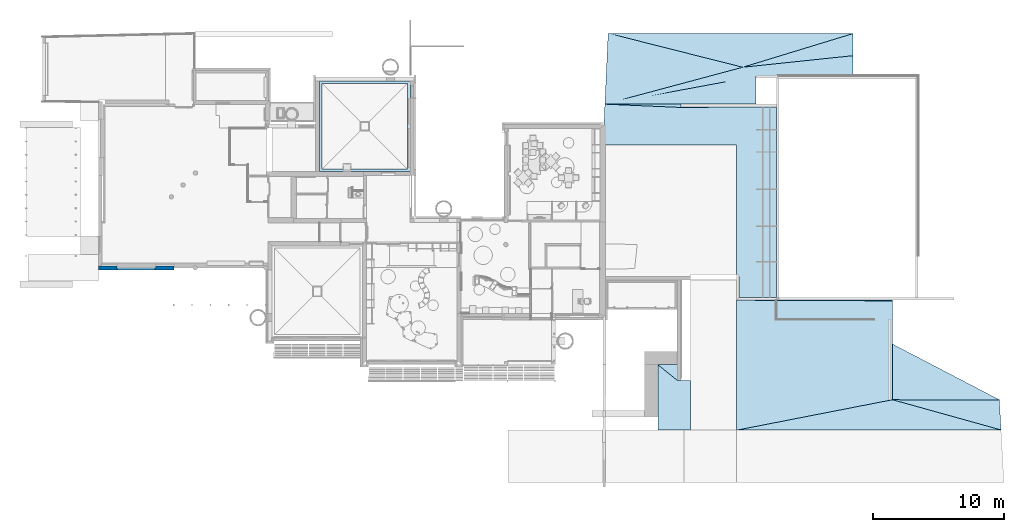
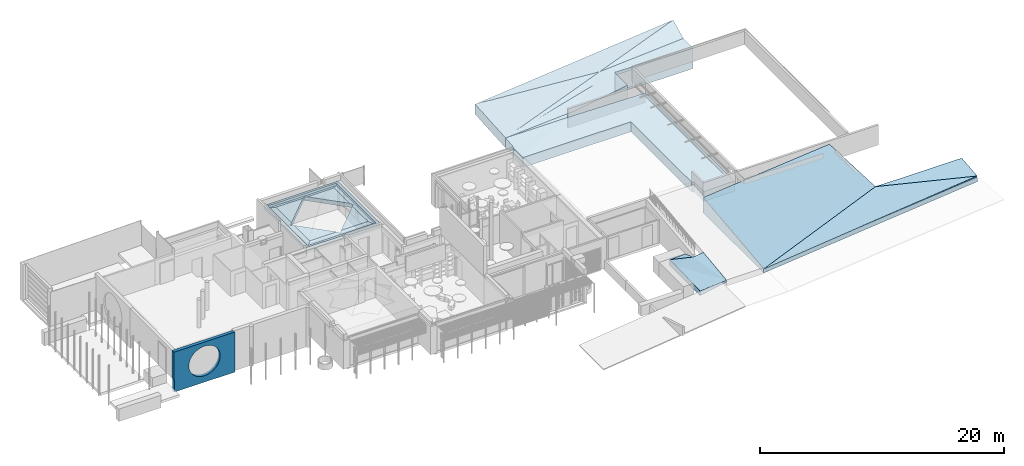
# One storey, part 36 of 64: 5 slabs, 1 wall.
"""IFC2X3 building model written with IfcOpenShell, lengths in metres."""

from ifc_helpers import new_model, entity, si_unit, converted_unit, derived_unit, direction, frame, origin, place, context, subcontext, project, spatial, faceted_brep, material, layer, layer_set, type_object, element, save


model = new_model("IFC2X3")

# Units and contexts
model_context = context("Model", 3, precision=1e-05, world=origin(), true_north=direction((6.123031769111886e-17, 1.0)))
body_context = subcontext(model_context, "Body", "Model", "MODEL_VIEW")
ifc_project = project(units=[si_unit("LENGTHUNIT", "METRE"), si_unit("AREAUNIT", "SQUARE_METRE"), si_unit("VOLUMEUNIT", "CUBIC_METRE"), converted_unit("PLANEANGLEUNIT", "DEGREE", entity("IfcRatioMeasure", 0.017453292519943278), si_unit("PLANEANGLEUNIT", "RADIAN"), dimensions=[0, 0, 0, 0, 0, 0, 0]), si_unit("MASSUNIT", "GRAM", prefix="KILO"), derived_unit("MASSDENSITYUNIT", [(si_unit("MASSUNIT", "GRAM", prefix="KILO"), 1), (si_unit("LENGTHUNIT", "METRE"), -3)]), derived_unit("MOMENTOFINERTIAUNIT", [(si_unit("LENGTHUNIT", "METRE"), 4)]), si_unit("TIMEUNIT", "SECOND"), si_unit("FREQUENCYUNIT", "HERTZ"), si_unit("THERMODYNAMICTEMPERATUREUNIT", "DEGREE_CELSIUS"), derived_unit("THERMALTRANSMITTANCEUNIT", [(si_unit("MASSUNIT", "GRAM", prefix="KILO"), 1), (si_unit("THERMODYNAMICTEMPERATUREUNIT", "KELVIN"), -1), (si_unit("TIMEUNIT", "SECOND"), -3)]), derived_unit("THERMALCONDUCTANCEUNIT", [(si_unit("MASSUNIT", "GRAM", prefix="KILO"), 1), (si_unit("LENGTHUNIT", "METRE"), 1), (si_unit("THERMODYNAMICTEMPERATUREUNIT", "KELVIN"), -1), (si_unit("TIMEUNIT", "SECOND"), -3)]), derived_unit("VOLUMETRICFLOWRATEUNIT", [(si_unit("LENGTHUNIT", "METRE"), 3), (si_unit("TIMEUNIT", "SECOND"), -1)]), derived_unit("MASSFLOWRATEUNIT", [(si_unit("MASSUNIT", "GRAM", prefix="KILO"), 1), (si_unit("TIMEUNIT", "SECOND"), -1)]), derived_unit("ROTATIONALFREQUENCYUNIT", [(si_unit("TIMEUNIT", "SECOND"), -1)]), si_unit("ELECTRICCURRENTUNIT", "AMPERE"), si_unit("ELECTRICVOLTAGEUNIT", "VOLT"), si_unit("POWERUNIT", "WATT"), si_unit("FORCEUNIT", "NEWTON", prefix="KILO"), si_unit("ILLUMINANCEUNIT", "LUX"), si_unit("LUMINOUSFLUXUNIT", "LUMEN"), si_unit("LUMINOUSINTENSITYUNIT", "CANDELA"), derived_unit("USERDEFINED", [(si_unit("MASSUNIT", "GRAM", prefix="KILO"), -1), (si_unit("LENGTHUNIT", "METRE"), -2), (si_unit("TIMEUNIT", "SECOND"), 3), (si_unit("LUMINOUSFLUXUNIT", "LUMEN"), 1)]), derived_unit("USERDEFINED", [(si_unit("MASSUNIT", "GRAM", prefix="KILO"), 1), (si_unit("LENGTHUNIT", "METRE"), 3), (si_unit("TIMEUNIT", "SECOND"), -3), (si_unit("ELECTRICCURRENTUNIT", "AMPERE"), -2)]), derived_unit("USERDEFINED", [(si_unit("LENGTHUNIT", "METRE"), 2), (si_unit("TIMEUNIT", "SECOND"), -2)]), derived_unit("SOUNDPOWERUNIT", [(si_unit("MASSUNIT", "GRAM", prefix="KILO"), 1), (si_unit("LENGTHUNIT", "METRE"), 2), (si_unit("TIMEUNIT", "SECOND"), -3)]), derived_unit("SOUNDPRESSUREUNIT", [(si_unit("MASSUNIT", "GRAM", prefix="KILO"), 1), (si_unit("LENGTHUNIT", "METRE"), -1), (si_unit("TIMEUNIT", "SECOND"), -2)]), derived_unit("LINEARVELOCITYUNIT", [(si_unit("LENGTHUNIT", "METRE"), 1), (si_unit("TIMEUNIT", "SECOND"), -1)]), si_unit("PRESSUREUNIT", "PASCAL"), derived_unit("USERDEFINED", [(si_unit("LENGTHUNIT", "METRE"), -2), (si_unit("MASSUNIT", "GRAM", prefix="KILO"), 1), (si_unit("TIMEUNIT", "SECOND"), -2)]), derived_unit("LINEARFORCEUNIT", [(si_unit("MASSUNIT", "GRAM", prefix="KILO"), 1), (si_unit("LENGTHUNIT", "METRE"), 1), (si_unit("TIMEUNIT", "SECOND"), -2), (si_unit("LENGTHUNIT", "METRE"), -1)]), derived_unit("PLANARFORCEUNIT", [(si_unit("MASSUNIT", "GRAM", prefix="KILO"), 1), (si_unit("LENGTHUNIT", "METRE"), 1), (si_unit("TIMEUNIT", "SECOND"), -2), (si_unit("LENGTHUNIT", "METRE"), -2)]), derived_unit("SPECIFICHEATCAPACITYUNIT", [(si_unit("LENGTHUNIT", "METRE"), 2), (si_unit("TIMEUNIT", "SECOND"), -2), (si_unit("THERMODYNAMICTEMPERATUREUNIT", "KELVIN"), -1)]), derived_unit("VAPORPERMEABILITYUNIT", [(si_unit("TIMEUNIT", "SECOND"), 1), (si_unit("LENGTHUNIT", "METRE"), -1)]), derived_unit("DYNAMICVISCOSITYUNIT", [(si_unit("MASSUNIT", "GRAM", prefix="KILO"), 1), (si_unit("LENGTHUNIT", "METRE"), -1), (si_unit("TIMEUNIT", "SECOND"), -1)]), derived_unit("THERMALEXPANSIONCOEFFICIENTUNIT", [(si_unit("THERMODYNAMICTEMPERATUREUNIT", "KELVIN"), -1)])], contexts=[model_context])

# Site, building, storey
site_placement = place(None, origin())
site = spatial("IfcSite", under=ifc_project, at=site_placement, Name="Default", CompositionType="ELEMENT")
building_placement = place(site_placement, origin())
building = spatial("IfcBuilding", under=site, at=building_placement, CompositionType="ELEMENT")
storey_placement = place(building_placement, origin())
storey = spatial("IfcBuildingStorey", under=building, at=storey_placement, Name="REZ-DE-CHAUSSÉE", CompositionType="ELEMENT", Elevation=0.0)

# Slabs
ifc_material_1 = material(Name="Env. - Herbe brune")
slab_type_1 = type_object("IfcSlabType", Name="Toit-03", PredefinedType="ROOF", material=ifc_material_1)
slab_1_placement = place(storey_placement, frame((132.40075220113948, -0.8127904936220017, 0.8999999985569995)))
element("IfcSlab", 1, at=slab_1_placement, inside=storey, type_object=slab_type_1, Name="Toit-03:Toit-03", ObjectType="Toit-03:Toit-03", PredefinedType="ROOF", context=body_context, shape_type="Brep", body=[
    faceted_brep([(2.7999981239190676e-08, 1.2990000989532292e-08, 0.0), (0.0, 1.2960001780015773e-08, 0.4496006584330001), (2.1999996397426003e-08, 3.980000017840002, 0.5697993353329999), (2.9408453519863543e-08, 4.980000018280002, 0.5697993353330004), (6.489409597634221e-08, 4.980000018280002, 6.522002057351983e-09), (8.860521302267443e-09, 1.2960001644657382e-08, 0.4496006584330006), (3.686050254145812e-08, 1.2990001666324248e-08, 0.0), (2.500000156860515, 0.0, 0.4772197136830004), (3.086051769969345e-08, 3.980000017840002, 0.5697993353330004), (2.500000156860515, 0.0, 0.6566930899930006), (3.086051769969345e-08, 4.980000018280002, 0.5697993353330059), (1.4900004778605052, 3.7800000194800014, 1.0421896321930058), (3.686050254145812e-08, 4.980000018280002, 6.52200043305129e-09), (1.4900000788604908, 4.980000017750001, 0.6300073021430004), (1.4900004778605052, 3.7800000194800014, 0.3754626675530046), (2.500000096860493, 3.7800001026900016, 0.4712899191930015), (2.499999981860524, 3.780000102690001, 1.1511999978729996)], [[[0, 1, 2, 3, 4]], [[5, 6, 7]], [[8, 5, 9]], [[10, 8, 11]], [[12, 10, 13]], [[6, 12, 14]], [[7, 6, 14]], [[5, 7, 9]], [[8, 9, 11]], [[13, 10, 11]], [[12, 13, 14]], [[7, 14, 15]], [[9, 7, 15]], [[16, 11, 9]], [[11, 14, 13]], [[14, 11, 15]], [[9, 15, 16]], [[15, 11, 16]]]),
])
slab_type_2 = type_object("IfcSlabType", Name="Dalle-008", PredefinedType="FLOOR", material=ifc_material_1)
slab_2_placement = place(storey_placement, frame((138.40075223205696, -0.8327807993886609, 1.047922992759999)))
element("IfcSlab", 2, at=slab_2_placement, inside=storey, type_object=slab_type_2, Name="Dalle-008:Dalle-008", ObjectType="Dalle-008:Dalle-008", PredefinedType="FLOOR", context=body_context, shape_type="Brep", body=[
    faceted_brep([(9.571537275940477, 0.009479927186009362, 1.479230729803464), (4.794048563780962e-08, 0.0, 0.43207700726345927), (11.899995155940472, 2.324234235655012, 3.0793324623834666), (20.18348866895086, 0.019990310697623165, 2.6402087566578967), (8.878766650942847, 0.01999031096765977, 1.409953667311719), (20.055439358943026, 2.319987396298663, 3.078877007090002), (0.00124441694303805, 9.91998508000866, 1.5562257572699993), (20.183686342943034, 0.0164397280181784, 2.5404456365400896), (20.184601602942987, 0.0, 2.0785274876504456), (20.055447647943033, 2.3198398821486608, 2.072515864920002), (20.18348865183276, 0.019990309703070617, 2.6402087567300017), (20.077476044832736, 1.9241695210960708, 2.078527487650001), (20.055447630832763, 2.3198398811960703, 2.072515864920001), (20.055439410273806, 2.319987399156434, 3.078877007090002), (11.899219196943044, 9.86547115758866, 2.757491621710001), (4.794301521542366e-08, 0.0, 0.022077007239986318), (20.183488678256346, 0.019990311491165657, 2.5404258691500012), (20.18368635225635, 0.0164397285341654, 2.540445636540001), (20.184601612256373, 0.0, 2.078527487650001), (20.07747602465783, 1.9241695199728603, 2.078527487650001), (20.183488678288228, 0.019990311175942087, 2.6402087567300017), (11.895096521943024, 6.5750781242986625, 0.0), (20.07747606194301, 1.924169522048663, 2.078527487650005), (11.90000008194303, 1.924169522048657, 0.02207700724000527), (11.901160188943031, 9.86559041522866, 2.7501424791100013), (0.0, 0.0, 0.022077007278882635), (0.0012443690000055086, 9.919985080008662, 1.5562257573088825), (0.001242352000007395, 9.919987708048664, 1.5537386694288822), (1.9177216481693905e-07, 9.919990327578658, 0.022077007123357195), (11.900003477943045, 9.61999032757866, 0.855283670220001), (1.5624088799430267, 9.919985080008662, 0.020444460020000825), (0.0012423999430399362, 9.91998770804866, 1.5537386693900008), (4.7943032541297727e-08, 9.91999032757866, 1.554960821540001), (4.7943032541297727e-08, 9.91999032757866, 0.02207700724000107), (1.5611645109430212, 9.91999032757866, 0.019179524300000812), (1.561164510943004, 9.61999032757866, 0.01917952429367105), (11.899306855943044, 9.91986582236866, 0.8638977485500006), (11.899356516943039, 9.61999032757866, 0.019179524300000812), (0.0012423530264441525, 9.91998770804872, 1.5537386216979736), (1.0264367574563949e-09, 9.91999032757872, 1.5549607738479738), (1.5611644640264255, 9.61999032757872, 0.01917947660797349), (1.5611646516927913, 9.919990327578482, 0.019179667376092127), (1.5604678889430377, 9.91986582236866, 0.027793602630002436), (11.89935651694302, 9.91999032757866, 0.019179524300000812), (11.900003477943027, 9.91999032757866, 0.855283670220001)], [[[0, 1, 2, 3, 4]], [[5, 2, 3]], [[1, 2, 6]], [[7, 0, 1, 8]], [[9, 2, 5]], [[10, 11, 12, 13]], [[2, 14, 6]], [[1, 6, 15]], [[15, 8, 1]], [[16, 17, 18, 19, 20]], [[2, 9, 21]], [[22, 23, 9]], [[21, 14, 2]], [[6, 14, 24]], [[25, 26, 27, 28]], [[15, 23, 8]], [[23, 22, 8]], [[21, 9, 23]], [[29, 14, 21]], [[30, 24, 14]], [[6, 24, 30]], [[31, 6, 32]], [[33, 31, 34]], [[15, 33, 34, 35, 21]], [[15, 21, 23]], [[29, 36, 14]], [[37, 29, 21]], [[30, 14, 35]], [[6, 30, 35]], [[35, 32, 6]], [[38, 39, 40, 41]], [[35, 37, 21]], [[36, 29, 35, 42]], [[42, 14, 36]], [[43, 44, 29, 37]], [[35, 14, 42]], [[43, 37, 35, 34]], [[29, 44, 34, 35]], [[34, 44, 43]]]),
])
slab_type_3 = type_object("IfcSlabType", Name="Dalle-010", PredefinedType="FLOOR")
slab_3_placement = place(storey_placement, frame((106.60075228, 18.897209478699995, 2.3999999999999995)))
element("IfcSlab", 3, at=slab_3_placement, inside=storey, type_object=slab_type_3, Name="Dalle-010 143417:Dalle-010 143417", ObjectType="Dalle-010 143417:Dalle-010 143417", PredefinedType="FLOOR", context=body_context, shape_type="Brep", body=[
    faceted_brep([(6.939999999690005, 0.0, 0.0), (0.0, 0.0, 0.0), (0.0, 6.920000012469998, 0.0), (6.939999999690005, 6.920000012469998, 0.0), (3.4449999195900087, 0.49015152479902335, 0.0), (6.414848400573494, 3.4600000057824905, 0.0), (3.4449999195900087, 6.429848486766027, 0.0), (0.47515143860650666, 3.460000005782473, 0.0), (6.939999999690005, 0.0, 0.4), (6.889999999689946, 0.0, 0.4), (0.0, 0.0, 0.4), (6.939999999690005, 6.920000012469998, 0.4), (0.0, 6.920000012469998, 0.4), (6.889999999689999, 6.920000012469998, 0.4), (6.889999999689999, 6.920000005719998, 0.4), (6.889999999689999, 6.753253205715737e-09, 0.4), (6.689999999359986, 0.2000000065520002, 0.4), (0.20000000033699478, 0.200000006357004, 0.4), (0.20000000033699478, 6.720000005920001, 0.4), (6.689999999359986, 6.720000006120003, 0.4), (6.689999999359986, 0.20000000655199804, 0.16999999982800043), (0.20000000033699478, 0.20000000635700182, 0.16999999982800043), (6.689999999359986, 6.720000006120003, 0.16999999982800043), (0.20000000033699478, 6.720000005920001, 0.16999999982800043), (6.1964377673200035, 0.6935622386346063, 0.39999999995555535), (3.648410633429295, 0.6935622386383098, 0.39999999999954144), (3.4449999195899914, 0.4901515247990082, 0.3052106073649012), (3.2415892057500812, 0.6935622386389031, 0.4000000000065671), (0.6935622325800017, 0.6935622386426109, 0.40000000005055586), (6.196437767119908, 6.226437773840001, 0.4000000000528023), (6.1964377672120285, 3.6784106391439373, 0.4000000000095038), (6.414848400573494, 3.4600000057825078, 0.2982206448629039), (6.196437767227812, 3.241589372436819, 0.40000000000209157), (0.6935622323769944, 6.226437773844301, 0.3999999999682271), (3.241589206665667, 6.226437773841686, 0.400000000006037), (3.4449999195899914, 6.429848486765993, 0.30521060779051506), (3.6484106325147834, 6.226437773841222, 0.4000000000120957), (0.6935622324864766, 3.2415892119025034, 0.4000000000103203), (0.47515143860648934, 3.4600000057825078, 0.2982205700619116), (0.6935622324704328, 3.6784107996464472, 0.40000000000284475)], [[[0, 1, 2, 3], [4, 5, 6, 7]], [[1, 0, 8, 9, 10]], [[0, 3, 11, 8]], [[3, 2, 12, 13, 11]], [[2, 1, 10, 12]], [[14, 9, 8, 11]], [[15, 13, 12, 10], [16, 17, 18, 19]], [[17, 16, 20, 21]], [[16, 19, 22, 20]], [[19, 18, 23, 22]], [[18, 17, 21, 23]], [[21, 20, 24, 25, 26, 27, 28]], [[20, 22, 29, 30, 31, 32, 24]], [[22, 23, 33, 34, 35, 36, 29]], [[23, 21, 28, 37, 38, 39, 33]], [[28, 27, 37]], [[4, 26, 25, 32, 31, 5]], [[5, 31, 30, 36, 35, 6]], [[6, 35, 34, 39, 38, 7]], [[26, 4, 7, 38, 37, 27]], [[34, 33, 39]], [[25, 24, 32]], [[30, 29, 36]]]),
])
slab_type_4 = type_object("IfcSlabType", Name="Dalle-006", PredefinedType="FLOOR", material=ifc_material_1)
slab_4_placement = place(storey_placement, frame((128.200752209, 9.287209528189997, 1.960175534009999)))
element("IfcSlab", 4, at=slab_4_placement, inside=storey, type_object=slab_type_4, Name="Dalle-006 287964:Dalle-006 287964", ObjectType="Dalle-006 287964:Dalle-006 287964", PredefinedType="FLOOR", context=body_context, shape_type="Brep", body=[
    faceted_brep([(0.0, 11.61999991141, 0.039824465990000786), (0.0, 11.61999991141, 1.0398244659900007), (0.0, 13.209784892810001, 0.9898244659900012), (0.0, 13.209784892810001, 0.039824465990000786), (10.199999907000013, 11.61999991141, 0.039824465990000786), (10.199999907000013, 11.61999991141, 1.0398244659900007), (2.0, 11.61999991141, 1.0398244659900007), (0.09344076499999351, 13.209163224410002, 0.9898244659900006), (0.09344076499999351, 13.209163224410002, 0.039824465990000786), (0.16335314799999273, 14.74999984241, 0.039824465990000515), (5.9500000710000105, 14.74999984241, 0.039824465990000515), (5.9500000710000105, 14.549999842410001, 0.039824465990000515), (10.199999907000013, 1.6200001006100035, 0.039824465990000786), (10.199999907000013, 1.6200001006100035, 1.0398244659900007), (5.949997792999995, 14.500378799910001, 1.23614746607), (0.16335314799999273, 14.74999984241, 1.0398244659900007), (5.9500000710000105, 14.74999984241, 1.4097663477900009), (13.230999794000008, 14.524999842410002, 0.0), (10.400000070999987, 1.6200000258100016, 0.039824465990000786), (10.400000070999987, 1.6200000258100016, 1.0398244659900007), (13.199999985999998, 0.0, 0.039824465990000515), (10.400000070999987, 0.0, 0.039824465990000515), (13.261999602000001, 14.49999984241, 0.039824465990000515), (13.261996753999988, 0.0, 0.039824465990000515), (13.249999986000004, 14.549999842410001, 1.0898244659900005), (10.400000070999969, 0.0, 1.0398244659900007), (13.249999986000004, 0.0, 1.0874747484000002), (13.261996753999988, 0.0, 1.0874747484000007)], [[[0, 1, 2, 3]], [[1, 0, 4, 5, 6]], [[1, 7, 2]], [[8, 3, 2, 7]], [[0, 3, 8, 9, 10, 11, 4]], [[12, 13, 5, 4]], [[1, 6, 5, 14]], [[7, 1, 14]], [[8, 7, 15, 9]], [[9, 15, 16, 10]], [[14, 11, 10]], [[4, 11, 17]], [[12, 18, 19, 13]], [[13, 19, 5]], [[20, 21, 18, 12, 4, 22, 23]], [[14, 5, 24]], [[15, 7, 14]], [[15, 14, 16]], [[14, 10, 16]], [[11, 14, 24]], [[17, 11, 24]], [[4, 17, 22]], [[18, 25, 19]], [[5, 19, 26]], [[21, 20, 25]], [[21, 25, 18]], [[27, 23, 22]], [[25, 20, 23, 27, 26]], [[5, 26, 24]], [[22, 17, 24]], [[19, 25, 26]], [[27, 22, 24]], [[26, 27, 24]]]),
])
slab_type_5 = type_object("IfcSlabType", Name="Dalle-006", PredefinedType="FLOOR", material=ifc_material_1)
slab_5_placement = place(storey_placement, frame((128.36410535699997, 24.037209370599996, 2.0)))
element("IfcSlab", 5, at=slab_5_placement, inside=storey, type_object=slab_type_5, Name="Dalle-006 288131:Dalle-006 288131", ObjectType="Dalle-006 288131:Dalle-006 288131", PredefinedType="FLOOR", context=body_context, shape_type="Brep", body=[
    faceted_brep([(0.0, 0.0, 0.0), (0.24542711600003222, 5.409098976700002, 0.0), (18.93664711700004, 5.396953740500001, 0.0), (18.93664711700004, 2.1380001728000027, 0.0), (11.536647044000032, 2.1380001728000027, 0.0), (11.536647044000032, 0.0, 0.0), (0.0, 0.0, 1.0), (0.2454271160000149, 5.409098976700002, 1.0), (18.93664711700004, 5.396953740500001, 0.4999999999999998), (18.93664711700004, 2.1380001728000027, 2.0700000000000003), (18.93664711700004, 5.3869536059, 2.885791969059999), (18.93664711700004, 3.7000000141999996, 2.0700000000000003), (11.536647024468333, 0.0, 2.2199999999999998), (11.536647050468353, 0.0, 0.0), (11.536647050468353, 2.1380001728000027, 0.0), (11.536647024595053, 2.1380001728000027, 2.20918015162), (11.536647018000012, 0.0, 2.2199999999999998), (6.536647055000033, 0.0, 1.41788959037), (11.536647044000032, 2.1380001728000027, 2.209180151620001), (10.513229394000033, 2.815378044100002, 2.2261228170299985)], [[[0, 1, 2, 3, 4, 5]], [[0, 6, 7, 1]], [[1, 7, 8, 2]], [[9, 3, 2, 8, 10, 11]], [[3, 9, 4]], [[12, 13, 14, 15]], [[6, 0, 5, 16, 17]], [[7, 6, 18]], [[8, 7, 10]], [[19, 11, 10]], [[18, 9, 11]], [[18, 4, 9]], [[18, 19, 16]], [[19, 17, 16]], [[6, 17, 19]], [[6, 19, 18]], [[19, 7, 18]], [[7, 19, 10]], [[19, 18, 11]]]),
])

# Wall
ifc_material_2 = material(Name="Appareillage - Pierre taillé")
ifc_layer = layer(ifc_material_2, 0.29999999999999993)
ifc_layer_set = layer_set([ifc_layer], Name="Mur de base:Struct. - Pierre 300")
wall_type = type_object("IfcWallType", Name="Mur de base:Struct. - Pierre 300", PredefinedType="STANDARD", material=ifc_layer_set)
wall_placement = place(storey_placement, frame((95.48075228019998, 11.5272094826, -1.2000000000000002), z_axis=(0.0, 0.0, 1.0), x_axis=(-1.0, 0.0, 0.0)))
element("IfcWallStandardCase", 6, at=wall_placement, inside=storey, type_object=wall_type, Name="MurExt-006", ObjectType="Mur de base:Struct. - Pierre 300", context=body_context, shape_type="Brep", body=[
    faceted_brep([(0.0, -0.14999999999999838, 0.0), (5.730000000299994, -0.14999999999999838, 0.0), (5.730000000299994, -0.14999999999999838, 1.2000000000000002), (5.749999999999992, -0.14999999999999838, 1.2000000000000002), (5.749999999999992, -0.14999999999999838, 4.0), (5.479999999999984, -0.14999999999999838, 4.0), (0.0, -0.14999999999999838, 4.0), (1.4184405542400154, -0.14999999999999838, 2.4087336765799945), (1.5026610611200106, -0.14999999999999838, 2.686371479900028), (1.6394277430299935, -0.14999999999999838, 2.9422439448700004), (1.823484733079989, -0.14999999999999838, 3.1665180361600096), (2.0477588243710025, -0.14999999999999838, 3.350575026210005), (2.3036312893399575, -0.14999999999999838, 3.487341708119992), (2.581269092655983, -0.14999999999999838, 3.5715622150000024), (2.8700027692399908, -0.14999999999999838, 3.599999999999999), (3.1587364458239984, -0.14999999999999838, 3.571562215), (3.4363742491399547, -0.14999999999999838, 3.4873417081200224), (3.6922467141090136, -0.14999999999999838, 3.3505750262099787), (3.9165208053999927, -0.14999999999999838, 3.1665180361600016), (4.100577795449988, -0.14999999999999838, 2.942243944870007), (4.237344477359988, -0.14999999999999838, 2.686371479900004), (4.321564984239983, -0.14999999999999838, 2.4087336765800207), (4.350002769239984, -0.14999999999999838, 2.1200000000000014), (4.321564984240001, -0.14999999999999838, 1.8312663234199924), (4.23734447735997, -0.14999999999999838, 1.5536285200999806), (4.100577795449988, -0.14999999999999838, 1.2977560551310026), (3.9165208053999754, -0.14999999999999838, 1.0734819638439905), (3.6922467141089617, -0.14999999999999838, 0.8894249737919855), (3.4363742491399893, -0.14999999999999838, 0.7526582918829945), (3.158736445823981, -0.14999999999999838, 0.6684377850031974), (2.8700027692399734, -0.14999999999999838, 0.6400000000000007), (2.581269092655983, -0.14999999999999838, 0.6684377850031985), (2.3036312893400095, -0.14999999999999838, 0.7526582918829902), (2.0477588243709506, -0.14999999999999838, 0.8894249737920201), (1.823484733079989, -0.14999999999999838, 1.0734819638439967), (1.6394277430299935, -0.14999999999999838, 1.2977560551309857), (1.5026610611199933, -0.14999999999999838, 1.5536285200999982), (1.418440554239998, -0.14999999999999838, 1.8312663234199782), (1.390002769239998, -0.14999999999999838, 2.1200000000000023), (5.730000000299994, 0.15000000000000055, 0.0), (0.0, 0.15000000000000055, 0.0), (0.0, 0.15000000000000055, 4.0), (5.749999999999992, 0.15000000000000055, 4.0), (5.749999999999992, 0.15000000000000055, 1.2000000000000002), (5.730000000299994, 0.15000000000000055, 1.2000000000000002), (1.502661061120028, 0.15000000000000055, 2.6863714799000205), (1.418440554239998, 0.15000000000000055, 2.408733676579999), (1.390002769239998, 0.15000000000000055, 2.1200000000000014), (1.418440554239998, 0.15000000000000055, 1.8312663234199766), (1.5026610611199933, 0.15000000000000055, 1.553628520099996), (1.6394277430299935, 0.15000000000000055, 1.297756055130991), (1.8234847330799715, 0.15000000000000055, 1.0734819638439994), (2.047758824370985, 0.15000000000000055, 0.8894249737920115), (2.3036312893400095, 0.15000000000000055, 0.7526582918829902), (2.581269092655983, 0.15000000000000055, 0.6684377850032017), (2.8700027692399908, 0.15000000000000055, 0.6399999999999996), (3.1587364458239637, 0.15000000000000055, 0.6684377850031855), (3.4363742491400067, 0.15000000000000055, 0.7526582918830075), (3.6922467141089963, 0.15000000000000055, 0.8894249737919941), (3.9165208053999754, 0.15000000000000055, 1.0734819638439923), (4.100577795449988, 0.15000000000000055, 1.297756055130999), (4.23734447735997, 0.15000000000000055, 1.553628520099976), (4.321564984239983, 0.15000000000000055, 1.8312663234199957), (4.350002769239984, 0.15000000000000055, 2.12), (4.321564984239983, 0.15000000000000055, 2.408733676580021), (4.237344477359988, 0.15000000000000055, 2.686371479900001), (4.100577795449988, 0.15000000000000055, 2.942243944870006), (3.91652080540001, 0.15000000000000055, 3.166518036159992), (3.6922467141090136, 0.15000000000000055, 3.350575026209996), (3.4363742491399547, 0.15000000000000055, 3.487341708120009), (3.1587364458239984, 0.15000000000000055, 3.5715622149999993), (2.8700027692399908, 0.15000000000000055, 3.6000000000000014), (2.5812690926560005, 0.15000000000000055, 3.5715622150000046), (2.303631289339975, 0.15000000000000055, 3.487341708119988), (2.047758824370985, 0.15000000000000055, 3.3505750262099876), (1.8234847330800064, 0.15000000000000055, 3.1665180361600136), (1.6394277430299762, 0.15000000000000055, 2.942243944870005), (0.0, -0.030000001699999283, 0.0), (0.0, -0.030000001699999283, 4.0)], [[[0, 1, 2, 3, 4, 5, 6], [7, 8, 9, 10, 11, 12, 13, 14, 15, 16, 17, 18, 19, 20, 21, 22, 23, 24, 25, 26, 27, 28, 29, 30, 31, 32, 33, 34, 35, 36, 37, 38]], [[39, 40, 41, 42, 43, 44], [45, 46, 47, 48, 49, 50, 51, 52, 53, 54, 55, 56, 57, 58, 59, 60, 61, 62, 63, 64, 65, 66, 67, 68, 69, 70, 71, 72, 73, 74, 75, 76]], [[1, 0, 77, 40, 39]], [[6, 5, 4, 42, 41, 78]], [[7, 46, 45, 8]], [[8, 45, 76, 9]], [[9, 76, 75, 10]], [[10, 75, 74, 11]], [[11, 74, 73, 12]], [[12, 73, 72, 13]], [[13, 72, 71, 14]], [[14, 71, 70, 15]], [[15, 70, 69, 16]], [[16, 69, 68, 17]], [[17, 68, 67, 18]], [[18, 67, 66, 19]], [[19, 66, 65, 20]], [[20, 65, 64, 21]], [[21, 64, 63, 22]], [[22, 63, 62, 23]], [[23, 62, 61, 24]], [[24, 61, 60, 25]], [[25, 60, 59, 26]], [[26, 59, 58, 27]], [[27, 58, 57, 28]], [[28, 57, 56, 29]], [[29, 56, 55, 30]], [[30, 55, 54, 31]], [[31, 54, 53, 32]], [[32, 53, 52, 33]], [[33, 52, 51, 34]], [[34, 51, 50, 35]], [[35, 50, 49, 36]], [[36, 49, 48, 37]], [[37, 48, 47, 38]], [[46, 7, 38, 47]], [[3, 2, 44, 43]], [[2, 1, 39, 44]], [[4, 3, 43, 42]], [[6, 78, 41, 40, 77, 0]]]),
])

save(model, "model.ifc")
